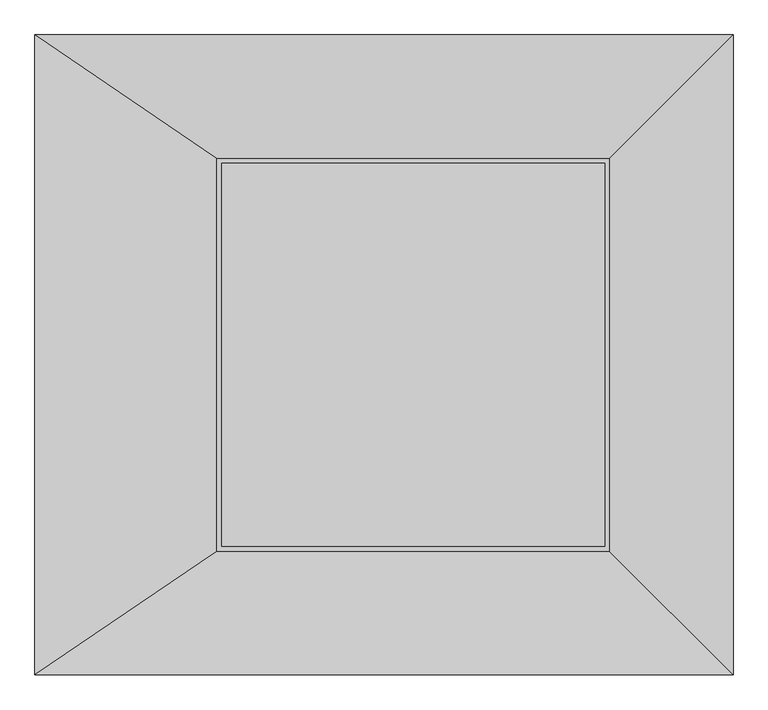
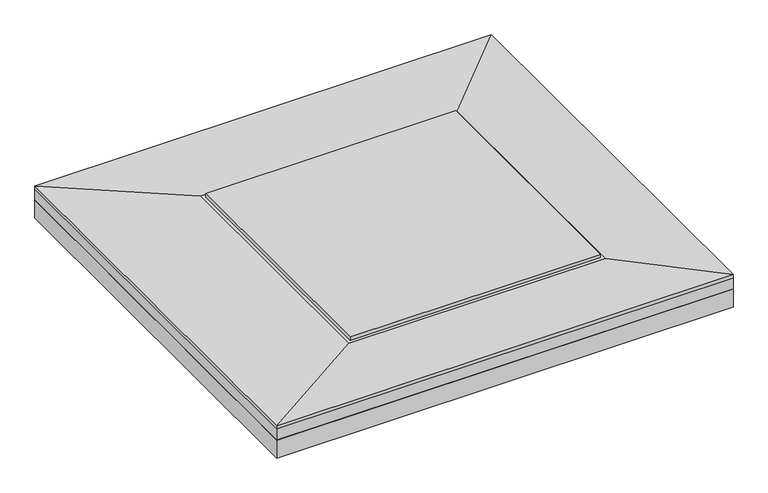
"""IFC4 building model written with IfcOpenShell, lengths in millimetres: sanitary terminal geometry, NLRS_PF_52_UN_Showerboard SQUARE_uitloop_Easydrain : Square Onderuitloop 50 mm."""

from ifc_helpers import new_model, si_unit, frame, origin, place, context, project, spatial, polyline, circle_curve, outline, extrude, faceted_brep, source, transform, mapped, element, save
from ifc_brep_helpers import plane_surface, revolved_surface, advanced_brep


def sanitary_terminal_98deaa17(model_context):
    return source(origin(), model_context, "Body", "SolidModel", [
        extrude(outline(polyline([(550.0, 550.0), (550.0, -550.0), (-650.0, -550.0), (-650.0, 550.0), (550.0, 550.0)]), holes=[polyline([(-25.0, -50.0), (25.0, -50.0), (25.0, 0.0), (-25.0, 0.0), (-25.0, -50.0)])]), frame((0.0, 0.0, -90.0), z_axis=(0.0, 0.0, 1.0), x_axis=(1.0, 0.0, 0.0)), (0.0, 0.0, 1.0), 50.0),
        extrude(outline(polyline([(329.0, 329.0), (329.0, -329.0), (-329.0, -329.0), (-329.0, 329.0), (329.0, 329.0)])), frame((0.0, 0.0, -9.0), z_axis=(0.0, 0.0, 1.0), x_axis=(1.0, 0.0, 0.0)), (0.0, 0.0, 1.0), 9.0),
        faceted_brep([(550.0, 550.0, -9.0), (550.0, -550.0, -9.0), (-650.0, -550.0, -9.0), (-650.0, 550.0, -9.0), (338.0, -338.0, -9.0), (338.0, 338.0, -9.0), (-338.0, 338.0, -9.0), (-338.0, -338.0, -9.0), (-650.0, 550.0, 0.0), (550.0, 550.0, 0.0), (-650.0, -550.0, 0.0), (550.0, -550.0, 0.0)], [[[0, 1, 2, 3], [4, 5, 6, 7]], [[0, 3, 8, 9]], [[3, 2, 10, 8]], [[2, 1, 11, 10]], [[1, 0, 9, 11]], [[9, 5, 4, 11]], [[11, 4, 7, 10]], [[10, 7, 6, 8]], [[5, 9, 8, 6]]]),
        advanced_brep(
        [(550.0, 550.0, -40.0), (550.0, -550.0, -40.0), (-650.0, -550.0, -40.0), (-650.0, 550.0, -40.0), (-51.0, 0.0, -40.0), (51.0, 0.0, -40.0), (-650.0, 550.0, 0.0), (550.0, 550.0, 0.0), (-650.0, -550.0, 0.0), (550.0, -550.0, 0.0), (51.0, 0.0, -9.0), (-51.0, 0.0, -9.0), (338.0, 338.0, -9.0), (-338.0, 338.0, -9.0), (-338.0, -338.0, -9.0), (338.0, -338.0, -9.0)],
        [
            (0, 1),
            (1, 2),
            (2, 3),
            (3, 0),
            (4, 5, circle_curve(frame((0.0, 0.0, -40.0), z_axis=(0.0, 0.0, 1.0), x_axis=(1.0, 0.0, 0.0)), 51.0)),
            (5, 4, circle_curve(frame((0.0, 0.0, -40.0), z_axis=(0.0, 0.0, 1.0), x_axis=(1.0, 0.0, 0.0)), 51.0)),
            (3, 6),
            (6, 7),
            (7, 0),
            (2, 8),
            (8, 6),
            (1, 9),
            (9, 8),
            (7, 9),
            (5, 10),
            (10, 11, circle_curve(frame((0.0, 0.0, -9.0), z_axis=(0.0, 0.0, 1.0), x_axis=(1.0, 0.0, 0.0)), 51.0)),
            (11, 4),
            (11, 10, circle_curve(frame((0.0, 0.0, -9.0), z_axis=(0.0, 0.0, 1.0), x_axis=(1.0, 0.0, 0.0)), 51.0)),
            (12, 13),
            (13, 14),
            (14, 15),
            (15, 12),
            (15, 9),
            (7, 12),
            (14, 8),
            (13, 6),
        ],
        [
            plane_surface(frame((-650.0, 550.0, -40.0), z_axis=(0.0, 0.0, -1.0), x_axis=(1.0, 0.0, 0.0))),
            plane_surface(frame((550.0, 550.0, 0.0), z_axis=(0.0, 1.0, 0.0), x_axis=(0.0, 0.0, -1.0))),
            plane_surface(frame((-650.0, 550.0, 0.0), z_axis=(-1.0, 0.0, 0.0), x_axis=(0.0, 0.0, -1.0))),
            plane_surface(frame((-650.0, -550.0, 0.0), z_axis=(0.0, -1.0, 0.0), x_axis=(0.0, 0.0, -1.0))),
            plane_surface(frame((550.0, -550.0, 0.0), z_axis=(1.0, 0.0, 0.0), x_axis=(0.0, 0.0, -1.0))),
            revolved_surface(polyline([(51.0, 0.0, -40.0), (51.0, 0.0, -9.0)]), (0.0, 0.0, 0.0), (0.0, 0.0, -1.0)),
            plane_surface(frame((0.0, 0.0, -9.0), z_axis=(0.0, 0.0, 1.0), x_axis=(-1.0, 0.0, 0.0))),
            plane_surface(frame((550.0, 0.0, 0.0), z_axis=(-0.04241462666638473, 0.0, 0.999100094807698), x_axis=(0.0, -1.0, 0.0))),
            plane_surface(frame((-50.0, -550.0, 0.0), z_axis=(0.0, 0.04241462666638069, 0.9991000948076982), x_axis=(-1.0, 0.0, 0.0))),
            plane_surface(frame((-650.0, 0.0, 0.0), z_axis=(0.028834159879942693, 0.0, 0.9995842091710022), x_axis=(0.0, 1.0, 0.0))),
            plane_surface(frame((-50.0, 550.0, 0.0), z_axis=(0.0, -0.04241462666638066, 0.9991000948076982), x_axis=(1.0, 0.0, 0.0))),
        ],
        [
            (0, [[1, 2, 3, 4], [5, 6]]),
            (1, [[-4, 7, 8, 9]]),
            (2, [[-3, 10, 11, -7]]),
            (3, [[-2, 12, 13, -10]]),
            (4, [[-1, -9, 14, -12]]),
            (5, [[-6, 15, 16, 17]]),
            (5, [[-5, -17, 18, -15]]),
            (6, [[19, 20, 21, 22], [-16, -18]]),
            (7, [[-22, 23, -14, 24]]),
            (8, [[-21, 25, -13, -23]]),
            (9, [[-20, 26, -11, -25]]),
            (10, [[-19, -24, -8, -26]]),
        ],
    ),
    ])


if __name__ == "__main__":
    model = new_model("IFC4")
    model_context = context("Model", 3, world=origin())
    ifc_project = project(units=[si_unit("LENGTHUNIT", "METRE", prefix="MILLI")], contexts=[model_context])
    site = spatial("IfcSite", under=ifc_project)
    building = spatial("IfcBuilding", under=site)
    placement = place(None, origin())
    sanitary_terminal_shape = sanitary_terminal_98deaa17(model_context)
    element("IfcSanitaryTerminal", 1, ObjectType="NLRS_PF_52_UN_Showerboard SQUARE_uitloop_Easydrain : Square Onderuitloop 50 mm", at=placement, inside=building, context=model_context, shape_type="MappedRepresentation", body=[
        mapped(sanitary_terminal_shape, transform((0.0, 0.0, 0.0), x_axis=(1.0, 0.0, 0.0), y_axis=(0.0, 1.0, 0.0), z_axis=(0.0, 0.0, 1.0))),
    ])
    save(model, "model.ifc")
